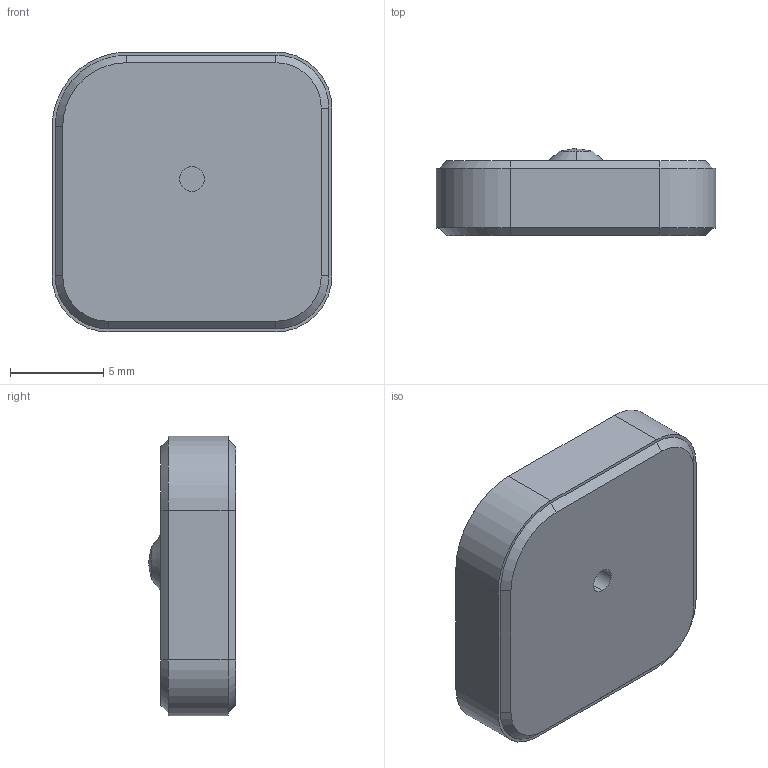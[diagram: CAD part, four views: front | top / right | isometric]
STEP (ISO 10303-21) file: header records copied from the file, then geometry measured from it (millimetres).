
FILE_DESCRIPTION((''),'2;1');
FILE_NAME('PATCH_DA15_ANY_PRT','2008-06-30T',('GRA'),(''),'PRO/ENGINEER BY PARAMETRIC TECHNOLOGY CORPORATION, 2006170','PRO/ENGINEER BY PARAMETRIC TECHNOLOGY CORPORATION, 2006170','');
FILE_SCHEMA(('CONFIG_CONTROL_DESIGN'));
Length unit declared in the file: millimetre
Products named in the file (1): PATCH_DA15_ANY_PRT
Bounding box: 15 x 4.67 x 15 mm (x, y, z)
Volume: 844.3 mm3; surface area: 641.2 mm2
Topology: 1 solids, 1 shells, 41 faces, 100 edges, 65 vertices
Faces by surface type: plane 19, cone 12, cylinder 10
Entity records: 1242 total; most frequent: DIRECTION 220, CARTESIAN_POINT 204, ORIENTED_EDGE 196, EDGE_CURVE 98, AXIS2_PLACEMENT_3D 81, VERTEX_POINT 65, VECTOR 58, LINE 58
